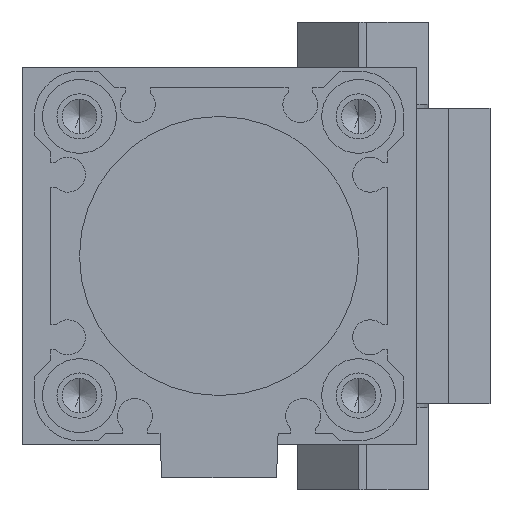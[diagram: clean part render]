
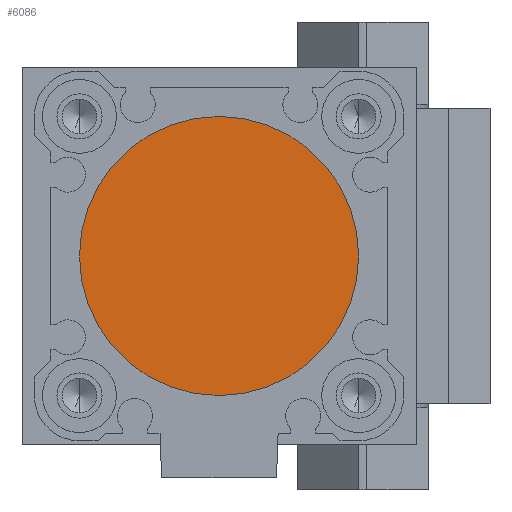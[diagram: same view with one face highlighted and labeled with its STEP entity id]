
A CAD part, front view. The second image highlights one B-rep face of the part: STEP entity #6086.
In plain terms, the highlighted planar face has unit normal (0, -1, 0) as drawn and (1, 0, 0) by its records, which use the part's own axes.
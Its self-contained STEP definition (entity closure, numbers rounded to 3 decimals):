
#55 = CIRCLE ( 'NONE', #430, 17. ) ;
#363 = AXIS2_PLACEMENT_3D ( 'NONE', #2832, #2833, #2834 ) ;
#430 = AXIS2_PLACEMENT_3D ( 'NONE', #1776, #1777, #1778 ) ;
#1078 = ORIENTED_EDGE ( 'NONE', *, *, #5782, .T. ) ;
#1079 = ORIENTED_EDGE ( 'NONE', *, *, #3345, .T. ) ;
#1336 = CARTESIAN_POINT ( 'NONE',  ( 56., 0., 17. ) ) ;
#1349 = CARTESIAN_POINT ( 'NONE',  ( 56., 0., -17. ) ) ;
#1776 = CARTESIAN_POINT ( 'NONE',  ( 56., 0., 0. ) ) ;
#1777 = DIRECTION ( 'NONE',  ( 1., 0., 0. ) ) ;
#1778 = DIRECTION ( 'NONE',  ( 0., 0., -1. ) ) ;
#2832 = CARTESIAN_POINT ( 'NONE',  ( 56., 0., 0. ) ) ;
#2833 = DIRECTION ( 'NONE',  ( 1., 0., 0. ) ) ;
#2834 = DIRECTION ( 'NONE',  ( 0., 0., -1. ) ) ;
#3345 = EDGE_CURVE ( 'NONE', #6560, #6573, #4594, .T. ) ;
#3846 = FACE_OUTER_BOUND ( 'NONE', #4083, .T. ) ;
#4083 = EDGE_LOOP ( 'NONE', ( #1078, #1079 ) ) ;
#4190 = CARTESIAN_POINT ( 'NONE',  ( 56., 0., 0. ) ) ;
#4192 = PLANE ( 'NONE',  #5867 ) ;
#4195 = DIRECTION ( 'NONE',  ( 1., 0., 0. ) ) ;
#4196 = DIRECTION ( 'NONE',  ( 0., 0., -1. ) ) ;
#4594 = CIRCLE ( 'NONE', #363, 17. ) ;
#5782 = EDGE_CURVE ( 'NONE', #6573, #6560, #55, .T. ) ;
#5867 = AXIS2_PLACEMENT_3D ( 'NONE', #4190, #4195, #4196 ) ;
#6086 = ADVANCED_FACE ( 'NONE', ( #3846 ), #4192, .T. ) ;
#6560 = VERTEX_POINT ( 'NONE', #1336 ) ;
#6573 = VERTEX_POINT ( 'NONE', #1349 ) ;
